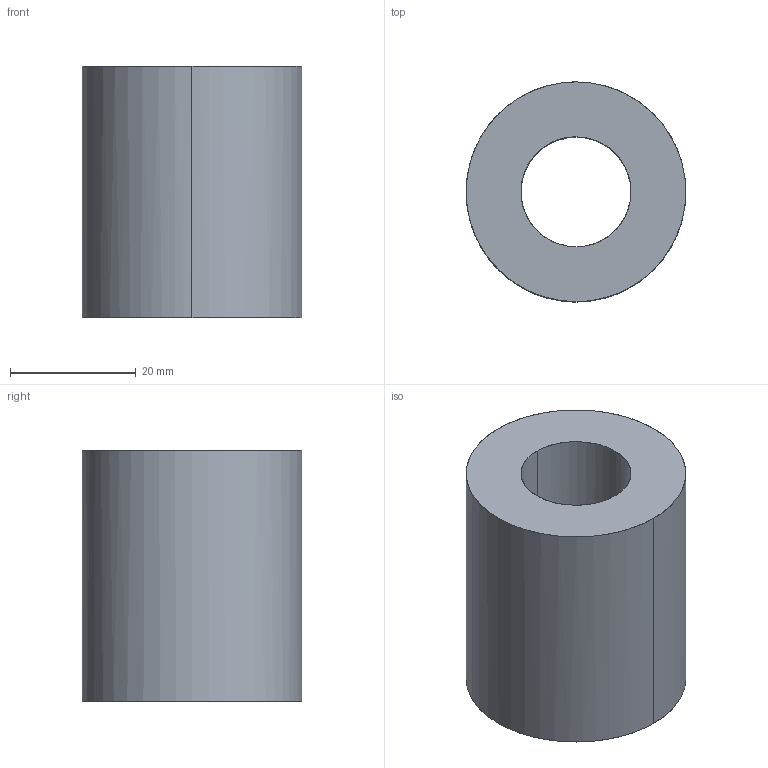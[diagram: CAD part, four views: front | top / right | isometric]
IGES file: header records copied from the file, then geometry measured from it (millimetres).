
Global section: file name: E:\UnigraphicsGraphicData\MISUMI_PRESS-PARTS\IGES\3d_swm35-40_00739_r00.igs; native system: NX V5.0; preprocessor: UGS NX IGES V5.0; author: MISUMI; date: 20110105.163259; units: millimetre
Bounding box: 35 x 35 x 40 mm (x, y, z)
Surface area: 8039.3 mm2 (no closed solid volume)
Topology: 0 solids, 0 shells, 6 faces, 64 edges, 64 vertices
Faces by surface type: bspline 6
